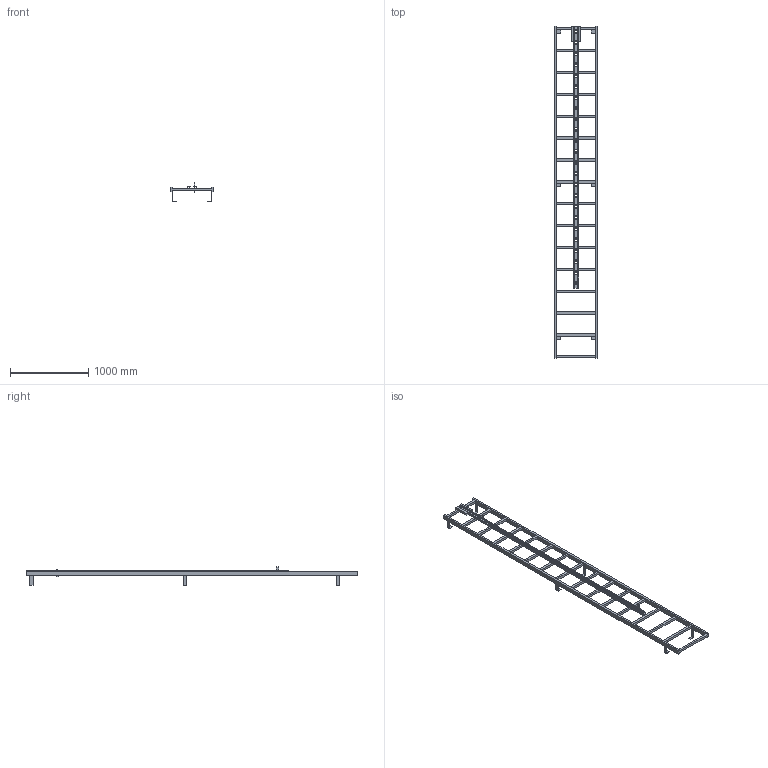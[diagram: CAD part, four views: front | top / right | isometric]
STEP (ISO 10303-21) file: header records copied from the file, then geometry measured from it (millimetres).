
FILE_DESCRIPTION((''),'2;1');
FILE_NAME('52330197','2024-12-05T09:04:30',('wep'),('HUBER SE'),'CREO PARAMETRIC BY PTC INC, 2022162','CREO PARAMETRIC BY PTC INC, 2022162','');
FILE_SCHEMA(('AUTOMOTIVE_DESIGN { 1 0 10303 214 1 1 1 1 }'));
Length unit declared in the file: millimetre
Products named in the file (1): 52330197
Bounding box: 550 x 4250 x 239 mm (x, y, z)
Volume: 19911704 mm3; surface area: 3355874.5 mm2
Topology: 2 solids, 2 shells, 268 faces, 782 edges, 512 vertices
Faces by surface type: plane 268
Entity records: 9373 total; most frequent: CARTESIAN_POINT 1564, ORIENTED_EDGE 1564, DIRECTION 1318, VECTOR 782, LINE 782, EDGE_CURVE 782, VERTEX_POINT 512, EDGE_LOOP 344
